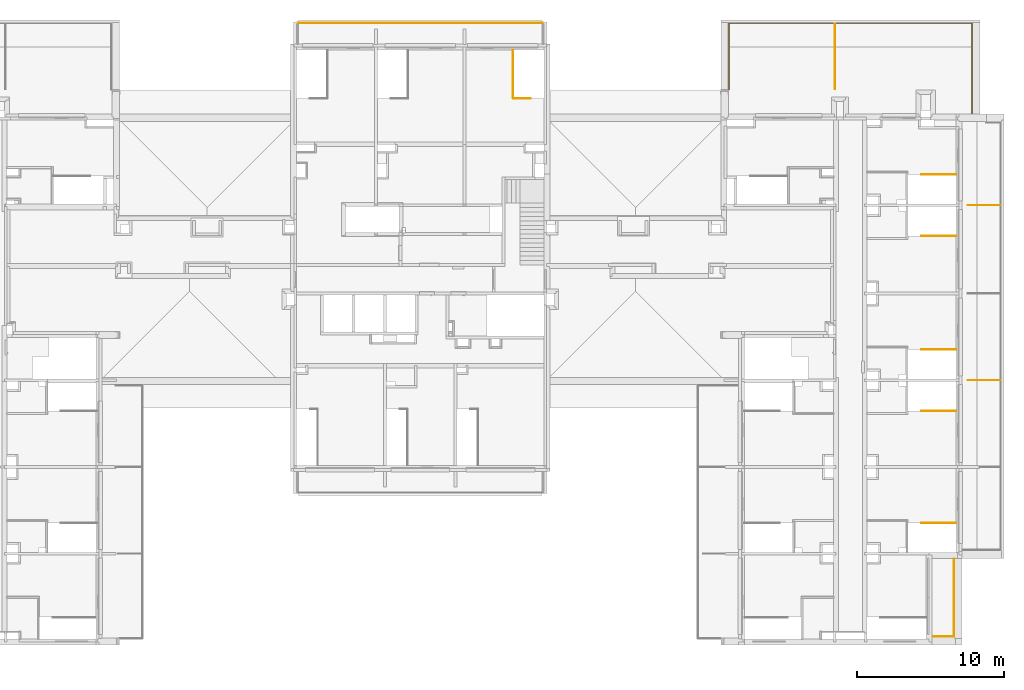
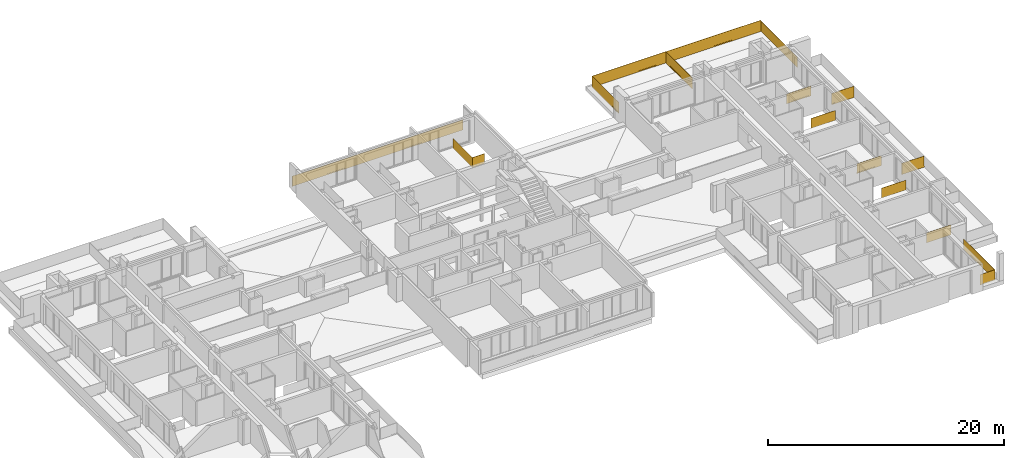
# One storey, part 10 of 30: 12 railings.
"""IFC2X3 building model written with IfcOpenShell, lengths in millimetres."""

import ifcopenshell
import ifcopenshell.guid

model = None  # the IFC model being written
_history = None  # IfcOwnerHistory: only IFC2X3 demands one
_inside = {}  # id of a spatial element -> (the spatial element, [elements in it])
_under = {}  # id of a project, library or spatial element -> (it, [spatial elements below it])
_declared = {}  # id of a project -> (the project, [libraries it declares])
_typed = {}  # id of a type object -> (the type object, [elements of that type])
_made_of = {}  # id of a material, layer set ... -> (it, [elements and type objects made of it])


def new_model(schema):
    """Start an empty IFC model of exactly this schema.

    Asked for "IFC4X3", IfcOpenShell would pick the latest addendum, in which some entities
    have other attributes; the version numbers below select the first issue.
    IFC2X3 requires an IfcOwnerHistory on every rooted entity: one is made here for all.
    """
    global model, _history
    if schema == "IFC4X3":
        model = ifcopenshell.file(schema_version=(4, 3, 0, 0))
    else:
        model = ifcopenshell.file(schema=schema)
    _inside.clear()
    _under.clear()
    _declared.clear()
    _typed.clear()
    _made_of.clear()
    _history = None
    if model.schema == "IFC2X3":
        org = make("IfcOrganization", Name="unknown")
        user = make(
            "IfcPersonAndOrganization",
            ThePerson=make("IfcPerson", FamilyName="unknown"),
            TheOrganization=org,
        )
        app = make(
            "IfcApplication",
            ApplicationDeveloper=org,
            Version="unknown",
            ApplicationFullName="unknown",
            ApplicationIdentifier="unknown",
        )
        _history = make(
            "IfcOwnerHistory",
            OwningUser=user,
            OwningApplication=app,
            ChangeAction="ADDED",
            CreationDate=0,
        )
    return model


def make(cls, **values):
    """One entity of the class cls with the attributes given. An attribute that is None is left unset."""
    return model.create_entity(
        cls, **{name: value for name, value in values.items() if value is not None}
    )


def entity(cls, *values):
    """Any entity or typed value of the class cls, its attributes in the order of the schema. None: left unset."""
    e = model.create_entity(cls)
    for i, value in enumerate(values):
        if value is not None:
            e[i] = value
    return e


def rooted(cls, **values):
    """An entity with a GlobalId (a new one), such as an element, a storey or a relation."""
    return make(cls, GlobalId=ifcopenshell.guid.new(), OwnerHistory=_history, **values)


def si_unit(unit_type, name, prefix=None):
    """IfcSIUnit, for example si_unit("LENGTHUNIT", "METRE", prefix="MILLI")."""
    return make("IfcSIUnit", UnitType=unit_type, Prefix=prefix, Name=name)


def converted_unit(unit_type, name, factor, base, dimensions=None, offset=None):
    """IfcConversionBasedUnit, such as the inch: factor (a typed value) times the base unit."""
    return make(
        "IfcConversionBasedUnit"
        if offset is None
        else "IfcConversionBasedUnitWithOffset",
        ConversionOffset=offset,
        Dimensions=None
        if dimensions is None
        else entity("IfcDimensionalExponents", *dimensions),
        UnitType=unit_type,
        Name=name,
        ConversionFactor=make(
            "IfcMeasureWithUnit", ValueComponent=factor, UnitComponent=base
        ),
    )


def derived_unit(unit_type, elements):
    """IfcDerivedUnit: a product of units, each with its exponent."""
    return make(
        "IfcDerivedUnit",
        Elements=[
            make("IfcDerivedUnitElement", Unit=unit, Exponent=power)
            for unit, power in elements
        ],
        UnitType=unit_type,
    )


def money_unit(currency):
    """IfcMonetaryUnit."""
    return make("IfcMonetaryUnit", Currency=currency)


def assignment(units):
    """IfcUnitAssignment: the units of a project."""
    return None if units is None else make("IfcUnitAssignment", Units=units)


def point(xyz):
    """IfcCartesianPoint."""
    return None if xyz is None else make("IfcCartesianPoint", Coordinates=xyz)


def direction(xyz):
    """IfcDirection."""
    return None if xyz is None else make("IfcDirection", DirectionRatios=xyz)


def frame(location, z_axis=None, x_axis=None):
    """IfcAxis2Placement3D, a coordinate frame: its origin and axes. An axis left out is left unset."""
    return make(
        "IfcAxis2Placement3D",
        Location=point(location),
        Axis=direction(z_axis),
        RefDirection=direction(x_axis),
    )


def origin_with_axes():
    """The frame at (0, 0, 0) with the z axis (0, 0, 1) and the x axis (1, 0, 0) written out."""
    return frame((0.0, 0.0, 0.0), z_axis=(0.0, 0.0, 1.0), x_axis=(1.0, 0.0, 0.0))


def place(relative_to, where):
    """IfcLocalPlacement: puts the frame where relative to a parent placement (None: the world)."""
    return make(
        "IfcLocalPlacement", PlacementRelTo=relative_to, RelativePlacement=where
    )


def context(
    kind, dimensions, precision=None, world=None, true_north=None, identifier=None
):
    """IfcGeometricRepresentationContext, for example the 3D "Model" context."""
    return make(
        "IfcGeometricRepresentationContext",
        ContextIdentifier=identifier,
        ContextType=kind,
        CoordinateSpaceDimension=dimensions,
        Precision=precision,
        WorldCoordinateSystem=world,
        TrueNorth=true_north,
    )


def subcontext(parent, identifier, kind, view, scale=None):
    """IfcGeometricRepresentationSubContext, for example "Body" below "Model"."""
    return make(
        "IfcGeometricRepresentationSubContext",
        ContextIdentifier=identifier,
        ContextType=kind,
        ParentContext=parent,
        TargetScale=scale,
        TargetView=view,
    )


def project(units=None, contexts=None):
    """IfcProject with its units and contexts."""
    return rooted(
        "IfcProject",
        Name="project",
        RepresentationContexts=contexts,
        UnitsInContext=assignment(units),
    )


def spatial(cls, under=None, at=None, **own):
    """A site, building, storey or space (cls), placed at a placement, below another one or the project."""
    s = rooted(cls, ObjectPlacement=at, **own)
    if under is not None:
        _under.setdefault(under.id(), (under, []))[1].append(s)
    return s


def faces_of(points, faces, orient=None, outer=None):
    """IfcFace entities. A face is a list of loops; a loop is a list of indices into points, from 0.

    orient and outer hold one flag for each loop. By default every Orientation is true, the
    first loop of a face is its IfcFaceOuterBound and the others are IfcFaceBound.
    """
    made = []
    for i, loops in enumerate(faces):
        bounds = []
        for j, loop in enumerate(loops):
            is_outer = j == 0 if outer is None else outer[i][j]
            bounds.append(
                make(
                    "IfcFaceOuterBound" if is_outer else "IfcFaceBound",
                    Bound=make("IfcPolyLoop", Polygon=[points[k] for k in loop]),
                    Orientation=True if orient is None else orient[i][j],
                )
            )
        made.append(make("IfcFace", Bounds=bounds))
    return made


def faceted_brep(points, faces, orient=None, outer=None, voids=None):
    """IfcFacetedBrep: a solid bounded by flat faces; with voids (closed shells), ...WithVoids."""
    shared = [point(p) for p in points]
    hull = make("IfcClosedShell", CfsFaces=faces_of(shared, faces, orient, outer))
    if voids is None:
        return make("IfcFacetedBrep", Outer=hull)
    return make(
        "IfcFacetedBrepWithVoids",
        Outer=hull,
        Voids=[
            make(cls, CfsFaces=faces_of(shared, fs, o, b)) for cls, fs, o, b in voids
        ],
    )


def shape(context_of_items, identifier, shape_type, items):
    """IfcShapeRepresentation: the items that make up one representation, for example the "Body"."""
    return make(
        "IfcShapeRepresentation",
        ContextOfItems=context_of_items,
        RepresentationIdentifier=identifier,
        RepresentationType=shape_type,
        Items=items,
    )


def material(Name=None, Category=None):
    """IfcMaterial."""
    return make("IfcMaterial", Name=Name, Category=Category)


def material_list(materials):
    """IfcMaterialList."""
    return make("IfcMaterialList", Materials=materials)


def made_of(thing, what):
    """Note that an element or type object is made of a material, layer set ...; save() writes the relation."""
    if what is not None:
        _made_of.setdefault(what.id(), (what, []))[1].append(thing)
    return thing


def type_object(cls, material=None, **own):
    """A type object (cls), such as IfcWallType, which elements share."""
    return made_of(rooted(cls, **own), material)


def element(
    cls,
    number,
    at=None,
    inside=None,
    cuts=None,
    type_object=None,
    material=None,
    context=None,
    identifier="Body",
    shape_type=None,
    held_by="IfcProductDefinitionShape",
    body=None,
    shapes=None,
    **own,
):
    """One element of the class cls, such as IfcWall. Its Tag is "e" and its number.

    at: its placement. inside: the storey or other place that contains it. cuts: it is an
    opening in that element (IfcRelVoidsElement). A single representation is given by context,
    identifier, shape_type and body (its items); several are given by shapes. held_by: the class
    of the entity that holds the representations. save() writes the other relations.
    """
    e = rooted(cls, Tag="e%d" % number, ObjectPlacement=at, **own)
    if body is not None:
        shapes = [shape(context, identifier, shape_type, body)]
    if shapes is not None:
        e.Representation = make(held_by, Representations=shapes)
    if inside is not None:
        _inside.setdefault(inside.id(), (inside, []))[1].append(e)
    if cuts is not None:
        rooted(
            "IfcRelVoidsElement", RelatingBuildingElement=cuts, RelatedOpeningElement=e
        )
    if type_object is not None:
        _typed.setdefault(type_object.id(), (type_object, []))[1].append(e)
    return made_of(e, material)


def aggregate(whole, parts):
    """IfcRelAggregates: a whole, such as a stair, and the parts it consists of."""
    return rooted("IfcRelAggregates", RelatingObject=whole, RelatedObjects=parts)


def save(model, path):
    """Write the relations noted so far, then the file.

    IfcRelAggregates (storeys below a building ...), IfcRelContainedInSpatialStructure (elements
    in a storey), IfcRelDefinesByType, IfcRelAssociatesMaterial and IfcRelDeclares: one each for
    every whole, place, type object, material and project.
    """
    for whole, parts in _under.values():
        aggregate(whole, parts)
    for where, things in _inside.values():
        rooted(
            "IfcRelContainedInSpatialStructure",
            RelatedElements=things,
            RelatingStructure=where,
        )
    for kind, things in _typed.values():
        rooted("IfcRelDefinesByType", RelatedObjects=things, RelatingType=kind)
    for what, things in _made_of.values():
        rooted("IfcRelAssociatesMaterial", RelatedObjects=things, RelatingMaterial=what)
    for by, libraries in _declared.values():
        rooted("IfcRelDeclares", RelatingContext=by, RelatedDefinitions=libraries)
    model.write(path)


model = new_model("IFC2X3")

# Units and contexts
model_context = context("Model", 3, precision=0.01, world=origin_with_axes(), true_north=direction((0.34421633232, 0.938890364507)))
body_context = subcontext(model_context, "Body", "Model", "MODEL_VIEW")
ifc_project = project(units=[si_unit("LENGTHUNIT", "METRE", prefix="MILLI"), si_unit("AREAUNIT", "SQUARE_METRE"), si_unit("VOLUMEUNIT", "CUBIC_METRE"), converted_unit("PLANEANGLEUNIT", "DEGREE", entity("IfcPlaneAngleMeasure", 0.0174532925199), si_unit("PLANEANGLEUNIT", "RADIAN"), dimensions=[0, 0, 0, 0, 0, 0, 0]), si_unit("SOLIDANGLEUNIT", "STERADIAN"), money_unit("USD"), converted_unit("TIMEUNIT", "Year", entity("IfcTimeMeasure", 31556926.0), si_unit("TIMEUNIT", "SECOND"), dimensions=[0, 0, 1, 0, 0, 0, 0]), si_unit("MASSUNIT", "GRAM", prefix="KILO"), si_unit("THERMODYNAMICTEMPERATUREUNIT", "DEGREE_CELSIUS"), si_unit("LUMINOUSINTENSITYUNIT", "LUMEN"), si_unit("ENERGYUNIT", "JOULE", prefix="MEGA"), derived_unit("THERMALCONDUCTANCEUNIT", [(si_unit("POWERUNIT", "WATT"), 1), (si_unit("LENGTHUNIT", "METRE"), -1), (si_unit("THERMODYNAMICTEMPERATUREUNIT", "KELVIN"), -1)]), derived_unit("SPECIFICHEATCAPACITYUNIT", [(si_unit("ENERGYUNIT", "JOULE"), 1), (si_unit("MASSUNIT", "GRAM", prefix="KILO"), -1), (si_unit("THERMODYNAMICTEMPERATUREUNIT", "KELVIN"), -1)]), derived_unit("MASSDENSITYUNIT", [(si_unit("MASSUNIT", "GRAM", prefix="KILO"), 1), (si_unit("VOLUMEUNIT", "CUBIC_METRE"), -1)])], contexts=[model_context])

# Site, building, storey
site_placement = place(None, origin_with_axes())
site = spatial("IfcSite", under=ifc_project, at=site_placement, Name="USTRONIE MORSKIE", CompositionType="ELEMENT")
building_placement = place(site_placement, origin_with_axes())
building = spatial("IfcBuilding", under=site, at=building_placement, Name="Budynek", CompositionType="ELEMENT")
storey_placement = place(building_placement, frame((0.0, 0.0, 16000.0), z_axis=(0.0, 0.0, 1.0), x_axis=(1.0, 0.0, 0.0)))
storey = spatial("IfcBuildingStorey", under=building, at=storey_placement, Name="ANTRESOLA - KOND. TECHNICZNA", CompositionType="ELEMENT", Elevation=16000.0)

# Railings
ifc_material_1 = material(Name="Szkło struktualne")
ifc_material_2 = material(Name="Profile aluminiowe")
ifc_material_list_1 = material_list([ifc_material_1, ifc_material_2])
railing_type = type_object("IfcRailingType", Name="Typ balustrady", PredefinedType="NOTDEFINED")
railing_1_placement = place(storey_placement, frame((423417.920919, 717201.199037, 100.0), z_axis=(0.0, 0.0, 1.0), x_axis=(1.0, 0.0, 0.0)))
element("IfcRailing", 1, at=railing_1_placement, inside=storey, type_object=railing_type, material=ifc_material_list_1, Name="BL1", PredefinedType="NOTDEFINED", context=body_context, shape_type="Brep", body=[
    faceted_brep([(-1540.0, -30.0, -50.0), (850.0, -30.0, -50.0), (850.0, -30.0, 950.0), (-1540.0, -30.0, 950.0), (850.0, -9.99999999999, -50.0), (-1540.0, -9.99999999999, -50.0), (850.0, -9.99999999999, 950.0), (-1540.0, -9.99999999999, 950.0)], [[[0, 1, 2, 3]], [[4, 1, 0, 5]], [[6, 2, 1, 4]], [[3, 2, 6, 7]], [[0, 3, 7, 5]], [[6, 4, 5, 7]]]),
    faceted_brep([(-1540.0, -5.0, 45.0), (850.0, -5.0, 45.0), (850.0, -5.0, -55.0), (-1540.0, -5.0, -55.0), (-1540.0, -9.99999999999, 45.0), (850.0, -9.99999999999, 45.0), (850.0, -9.99999999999, -50.0), (850.0, -30.0, -50.0), (850.0, -30.0, 45.0), (850.0, -35.0, 45.0), (850.0, -35.0, -55.0), (-1540.0, -35.0, -55.0), (-1540.0, -35.0, 45.0), (-1540.0, -30.0, 45.0), (-1540.0, -30.0, -50.0), (-1540.0, -9.99999999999, -50.0)], [[[0, 1, 2, 3]], [[1, 0, 4, 5]], [[6, 7, 8, 9, 10, 2, 1, 5]], [[10, 11, 3, 2]], [[11, 12, 13, 14, 15, 4, 0, 3]], [[15, 6, 5, 4]], [[7, 6, 15, 14]], [[8, 7, 14, 13]], [[9, 8, 13, 12]], [[11, 10, 9, 12]]]),
])
railing_2_placement = place(storey_placement, frame((379017.920919, 749309.408359, 200.0), z_axis=(0.0, 0.0, 1.0), x_axis=(1.0, 0.0, 0.0)))
element("IfcRailing", 2, at=railing_2_placement, inside=storey, type_object=railing_type, material=ifc_material_list_1, Name="BL1", PredefinedType="NOTDEFINED", context=body_context, shape_type="Brep", body=[
    faceted_brep([(17150.0, 1901.79067758, -100.0), (450.0, 1901.79067758, -100.0), (450.0, 1901.79067758, 950.0), (17150.0, 1901.79067758, 950.0), (450.0, 1881.79067758, -100.0), (17150.0, 1881.79067758, -100.0), (450.0, 1881.79067758, 950.0), (17150.0, 1881.79067758, 950.0)], [[[0, 1, 2, 3]], [[4, 1, 0, 5]], [[6, 2, 1, 4]], [[3, 2, 6, 7]], [[0, 3, 7, 5]], [[6, 4, 5, 7]]]),
    faceted_brep([(17150.0, 1876.79067758, -5.0), (450.0, 1876.79067758, -5.0), (450.0, 1876.79067758, -105.0), (17150.0, 1876.79067758, -105.0), (17150.0, 1881.79067758, -5.0), (450.0, 1881.79067758, -5.0), (450.0, 1881.79067758, -100.0), (450.0, 1901.79067758, -100.0), (450.0, 1901.79067758, -5.0), (450.0, 1906.79067758, -5.0), (450.0, 1906.79067758, -105.0), (17150.0, 1906.79067758, -105.0), (17150.0, 1906.79067758, -5.0), (17150.0, 1901.79067758, -5.0), (17150.0, 1901.79067758, -100.0), (17150.0, 1881.79067758, -100.0)], [[[0, 1, 2, 3]], [[1, 0, 4, 5]], [[6, 7, 8, 9, 10, 2, 1, 5]], [[10, 11, 3, 2]], [[11, 12, 13, 14, 15, 4, 0, 3]], [[15, 6, 5, 4]], [[7, 6, 15, 14]], [[8, 7, 14, 13]], [[9, 8, 13, 12]], [[11, 10, 9, 12]]]),
])
railing_3_placement = place(storey_placement, frame((425067.920919, 738801.199036, 200.0), z_axis=(0.0, 0.0, 1.0), x_axis=(-1.0, 0.0, 0.0)))
element("IfcRailing", 3, at=railing_3_placement, inside=storey, type_object=railing_type, material=ifc_material_list_1, Name="BL1", PredefinedType="NOTDEFINED", context=body_context, shape_type="Brep", body=[
    faceted_brep([(-2200.0, -9.99999999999, -100.0), (0.0, -9.99999999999, -100.0), (0.0, -9.99999999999, 1050.0), (-2200.0, -9.99999999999, 1050.0), (0.0, 9.99999999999, -100.0), (-2200.0, 9.99999999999, -100.0), (0.0, 9.99999999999, 1050.0), (-2200.0, 9.99999999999, 1050.0)], [[[0, 1, 2, 3]], [[4, 1, 0, 5]], [[6, 2, 1, 4]], [[3, 2, 6, 7]], [[0, 3, 7, 5]], [[6, 4, 5, 7]]]),
    faceted_brep([(-2200.0, 15.0, -5.0), (0.0, 15.0, -5.0), (0.0, 15.0, -105.0), (-2200.0, 15.0, -105.0), (-2200.0, 9.99999999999, -5.0), (0.0, 9.99999999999, -5.0), (0.0, 9.99999999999, -100.0), (0.0, -9.99999999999, -100.0), (0.0, -9.99999999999, -5.0), (0.0, -15.0, -5.0), (0.0, -15.0, -105.0), (-2200.0, -15.0, -105.0), (-2200.0, -15.0, -5.0), (-2200.0, -9.99999999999, -5.0), (-2200.0, -9.99999999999, -100.0), (-2200.0, 9.99999999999, -100.0)], [[[0, 1, 2, 3]], [[1, 0, 4, 5]], [[6, 7, 8, 9, 10, 2, 1, 5]], [[10, 11, 3, 2]], [[11, 12, 13, 14, 15, 4, 0, 3]], [[15, 6, 5, 4]], [[7, 6, 15, 14]], [[8, 7, 14, 13]], [[9, 8, 13, 12]], [[11, 10, 9, 12]]]),
])
ifc_material_list_2 = material_list([ifc_material_1, ifc_material_2, ifc_material_1, ifc_material_2])
railing_4_placement = place(storey_placement, frame((424157.920884, 714801.199036, 200.0), z_axis=(0.0, 0.0, 1.0), x_axis=(1.0, 0.0, 0.0)))
element("IfcRailing", 4, at=railing_4_placement, inside=storey, type_object=railing_type, material=ifc_material_list_2, Name="BL1", PredefinedType="NOTDEFINED", context=body_context, shape_type="Brep", body=[
    faceted_brep([(-39.9999656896, -29.9999996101, -100.00000039), (-39.9999656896, -29.9999996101, 950.000000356), (-39.9999656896, -5349.99999989, 950.000000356), (-39.9999656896, -5349.99999989, -100.00000039), (-59.9999652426, -29.9999996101, 950.000000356), (-59.9999652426, -29.9999996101, -100.00000039), (-59.9999652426, -5330.00000037, 950.000000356), (-59.9999652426, -5330.00000037, -100.00000039)], [[[0, 1, 2, 3]], [[4, 1, 0, 5]], [[2, 1, 4, 6]], [[3, 2, 6, 7]], [[5, 0, 3, 7]], [[6, 4, 5, 7]]]),
    faceted_brep([(-64.9999654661, -5340.00000009, -5.0), (-64.9999654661, -29.9999999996, -5.0), (-64.9999654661, -29.9999999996, -105.0), (-64.9999654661, -5340.00000009, -105.0), (-59.9999654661, -5340.00000009, -5.0), (-59.9999654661, -29.9999999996, -5.0), (-59.9999654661, -29.9999999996, -100.0), (-39.9999654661, -29.9999999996, -100.0), (-39.9999654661, -29.9999999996, -5.0), (-34.9999654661, -29.9999999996, -5.0), (-34.9999654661, -29.9999999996, -105.0), (-34.9999654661, -5340.00000009, -105.0), (-34.9999654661, -5340.00000009, -5.0), (-39.9999654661, -5340.00000009, -5.0), (-39.9999654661, -5340.00000009, -100.0), (-59.9999654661, -5340.00000009, -100.0)], [[[0, 1, 2, 3]], [[1, 0, 4, 5]], [[6, 7, 8, 9, 10, 2, 1, 5]], [[10, 11, 3, 2]], [[11, 12, 13, 14, 15, 4, 0, 3]], [[15, 6, 5, 4]], [[7, 6, 15, 14]], [[8, 7, 14, 13]], [[9, 8, 13, 12]], [[11, 10, 9, 12]]]),
    faceted_brep([(-39.9999653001, -5349.99999979, -100.00000039), (-39.9999653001, -5349.99999979, 950.000000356), (-1489.99996548, -5350.0000001, 950.000000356), (-1489.99996548, -5350.0000001, -100.00000039), (-59.999964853, -5330.00000024, 950.000000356), (-59.999964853, -5330.00000024, -100.00000039), (-1489.99996549, -5330.00000055, 950.000000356), (-1489.99996549, -5330.00000055, -100.00000039)], [[[0, 1, 2, 3]], [[4, 1, 0, 5]], [[2, 1, 4, 6]], [[3, 2, 6, 7]], [[5, 0, 3, 7]], [[6, 4, 5, 7]]]),
    faceted_brep([(-1489.99996548, -5325.00000033, -5.0), (-49.9999654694, -5325.00000001, -5.0), (-49.9999654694, -5325.00000001, -105.0), (-1489.99996548, -5325.00000033, -105.0), (-1489.99996548, -5330.00000033, -5.0), (-49.9999654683, -5330.00000001, -5.0), (-49.9999654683, -5330.00000001, -100.0), (-49.9999654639, -5350.00000001, -100.0), (-49.9999654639, -5350.00000001, -5.0), (-49.9999654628, -5355.00000001, -5.0), (-49.9999654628, -5355.00000001, -105.0), (-1489.99996547, -5355.00000033, -105.0), (-1489.99996547, -5355.00000033, -5.0), (-1489.99996547, -5350.00000033, -5.0), (-1489.99996547, -5350.00000033, -100.0), (-1489.99996548, -5330.00000033, -100.0)], [[[0, 1, 2, 3]], [[1, 0, 4, 5]], [[6, 7, 8, 9, 10, 2, 1, 5]], [[10, 11, 3, 2]], [[11, 12, 13, 14, 15, 4, 0, 3]], [[15, 6, 5, 4]], [[7, 6, 15, 14]], [[8, 7, 14, 13]], [[9, 8, 13, 12]], [[11, 10, 9, 12]]]),
])
railing_5_placement = place(storey_placement, frame((423417.920919, 736701.205626, 100.0), z_axis=(0.0, 0.0, 1.0), x_axis=(1.0, 0.0, 0.0)))
element("IfcRailing", 5, at=railing_5_placement, inside=storey, type_object=railing_type, material=ifc_material_list_1, Name="BL1", PredefinedType="NOTDEFINED", context=body_context, shape_type="Brep", body=[
    faceted_brep([(-1540.0, 9.99999999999, -50.0), (850.0, 9.99999999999, -50.0), (850.0, 9.99999999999, 950.0), (-1540.0, 9.99999999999, 950.0), (850.0, 30.0, -50.0), (-1540.0, 30.0, -50.0), (850.0, 30.0, 950.0), (-1540.0, 30.0, 950.0)], [[[0, 1, 2, 3]], [[4, 1, 0, 5]], [[6, 2, 1, 4]], [[3, 2, 6, 7]], [[0, 3, 7, 5]], [[6, 4, 5, 7]]]),
    faceted_brep([(-1540.0, 35.0, 45.0), (850.0, 35.0, 45.0), (850.0, 35.0, -55.0), (-1540.0, 35.0, -55.0), (-1540.0, 30.0, 45.0), (850.0, 30.0, 45.0), (850.0, 30.0, -50.0), (850.0, 9.99999999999, -50.0), (850.0, 9.99999999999, 45.0), (850.0, 5.0, 45.0), (850.0, 5.0, -55.0), (-1540.0, 5.0, -55.0), (-1540.0, 5.0, 45.0), (-1540.0, 9.99999999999, 45.0), (-1540.0, 9.99999999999, -50.0), (-1540.0, 30.0, -50.0)], [[[0, 1, 2, 3]], [[1, 0, 4, 5]], [[6, 7, 8, 9, 10, 2, 1, 5]], [[10, 11, 3, 2]], [[11, 12, 13, 14, 15, 4, 0, 3]], [[15, 6, 5, 4]], [[7, 6, 15, 14]], [[8, 7, 14, 13]], [[9, 8, 13, 12]], [[11, 10, 9, 12]]]),
])
for number, where, z_axis, x_axis, name in (
    (6, (423417.920919, 740901.204646, 100.0), (0.0, 0.0, 1.0), (1.0, 0.0, 0.0), "BL1"),
    (7, (423417.920919, 729001.175941, 100.0), (0.0, 0.0, 1.0), (1.0, 0.0, 0.0), "BL1"),
):
    element("IfcRailing", number, at=place(storey_placement, frame(where, z_axis=z_axis, x_axis=x_axis)), inside=storey, type_object=railing_type, material=ifc_material_list_1, Name=name, PredefinedType="NOTDEFINED", context=body_context, shape_type="Brep", body=[
        faceted_brep([(-1540.0, -30.0, -50.0), (850.0, -30.0, -50.0), (850.0, -30.0, 950.0), (-1540.0, -30.0, 950.0), (850.0, -9.99999999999, -50.0), (-1540.0, -9.99999999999, -50.0), (850.0, -9.99999999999, 950.0), (-1540.0, -9.99999999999, 950.0)], [[[0, 1, 2, 3]], [[4, 1, 0, 5]], [[6, 2, 1, 4]], [[3, 2, 6, 7]], [[0, 3, 7, 5]], [[6, 4, 5, 7]]]),
        faceted_brep([(-1540.0, -5.0, 45.0), (850.0, -5.0, 45.0), (850.0, -5.0, -55.0), (-1540.0, -5.0, -55.0), (-1540.0, -9.99999999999, 45.0), (850.0, -9.99999999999, 45.0), (850.0, -9.99999999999, -50.0), (850.0, -30.0, -50.0), (850.0, -30.0, 45.0), (850.0, -35.0, 45.0), (850.0, -35.0, -55.0), (-1540.0, -35.0, -55.0), (-1540.0, -35.0, 45.0), (-1540.0, -30.0, 45.0), (-1540.0, -30.0, -50.0), (-1540.0, -9.99999999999, -50.0)], [[[0, 1, 2, 3]], [[1, 0, 4, 5]], [[6, 7, 8, 9, 10, 2, 1, 5]], [[10, 11, 3, 2]], [[11, 12, 13, 14, 15, 4, 0, 3]], [[15, 6, 5, 4]], [[7, 6, 15, 14]], [[8, 7, 14, 13]], [[9, 8, 13, 12]], [[11, 10, 9, 12]]]),
    ])
railing_6_placement = place(storey_placement, frame((425067.920919, 726901.199036, 200.0), z_axis=(0.0, 0.0, 1.0), x_axis=(-1.0, 0.0, 0.0)))
element("IfcRailing", 8, at=railing_6_placement, inside=storey, type_object=railing_type, material=ifc_material_list_1, Name="BL1", PredefinedType="NOTDEFINED", context=body_context, shape_type="Brep", body=[
    faceted_brep([(-2200.0, -9.99999999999, -100.0), (0.0, -9.99999999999, -100.0), (0.0, -9.99999999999, 1050.0), (-2200.0, -9.99999999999, 1050.0), (0.0, 9.99999999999, -100.0), (-2200.0, 9.99999999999, -100.0), (0.0, 9.99999999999, 1050.0), (-2200.0, 9.99999999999, 1050.0)], [[[0, 1, 2, 3]], [[4, 1, 0, 5]], [[6, 2, 1, 4]], [[3, 2, 6, 7]], [[0, 3, 7, 5]], [[6, 4, 5, 7]]]),
    faceted_brep([(-2200.0, 15.0, -5.0), (0.0, 15.0, -5.0), (0.0, 15.0, -105.0), (-2200.0, 15.0, -105.0), (-2200.0, 9.99999999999, -5.0), (0.0, 9.99999999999, -5.0), (0.0, 9.99999999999, -100.0), (0.0, -9.99999999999, -100.0), (0.0, -9.99999999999, -5.0), (0.0, -15.0, -5.0), (0.0, -15.0, -105.0), (-2200.0, -15.0, -105.0), (-2200.0, -15.0, -5.0), (-2200.0, -9.99999999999, -5.0), (-2200.0, -9.99999999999, -100.0), (-2200.0, 9.99999999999, -100.0)], [[[0, 1, 2, 3]], [[1, 0, 4, 5]], [[6, 7, 8, 9, 10, 2, 1, 5]], [[10, 11, 3, 2]], [[11, 12, 13, 14, 15, 4, 0, 3]], [[15, 6, 5, 4]], [[7, 6, 15, 14]], [[8, 7, 14, 13]], [[9, 8, 13, 12]], [[11, 10, 9, 12]]]),
])
railing_7_placement = place(storey_placement, frame((423417.920919, 724801.199036, 100.0), z_axis=(0.0, 0.0, 1.0), x_axis=(1.0, 0.0, 0.0)))
element("IfcRailing", 9, at=railing_7_placement, inside=storey, type_object=railing_type, material=ifc_material_list_1, Name="BL1", PredefinedType="NOTDEFINED", context=body_context, shape_type="Brep", body=[
    faceted_brep([(-1540.0, 9.99999999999, -50.0), (850.0, 9.99999999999, -50.0), (850.0, 9.99999999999, 950.0), (-1540.0, 9.99999999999, 950.0), (850.0, 30.0, -50.0), (-1540.0, 30.0, -50.0), (850.0, 30.0, 950.0), (-1540.0, 30.0, 950.0)], [[[0, 1, 2, 3]], [[4, 1, 0, 5]], [[6, 2, 1, 4]], [[3, 2, 6, 7]], [[0, 3, 7, 5]], [[6, 4, 5, 7]]]),
    faceted_brep([(-1540.0, 35.0, 45.0), (850.0, 35.0, 45.0), (850.0, 35.0, -55.0), (-1540.0, 35.0, -55.0), (-1540.0, 30.0, 45.0), (850.0, 30.0, 45.0), (850.0, 30.0, -50.0), (850.0, 9.99999999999, -50.0), (850.0, 9.99999999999, 45.0), (850.0, 5.0, 45.0), (850.0, 5.0, -55.0), (-1540.0, 5.0, -55.0), (-1540.0, 5.0, 45.0), (-1540.0, 9.99999999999, 45.0), (-1540.0, 9.99999999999, -50.0), (-1540.0, 30.0, -50.0)], [[[0, 1, 2, 3]], [[1, 0, 4, 5]], [[6, 7, 8, 9, 10, 2, 1, 5]], [[10, 11, 3, 2]], [[11, 12, 13, 14, 15, 4, 0, 3]], [[15, 6, 5, 4]], [[7, 6, 15, 14]], [[8, 7, 14, 13]], [[9, 8, 13, 12]], [[11, 10, 9, 12]]]),
])
railing_8_placement = place(storey_placement, frame((390917.920812, 746051.198965, 100.0), z_axis=(0.0, 0.0, 1.0), x_axis=(-1.0, 0.0, 0.0)))
element("IfcRailing", 10, at=railing_8_placement, inside=storey, type_object=railing_type, material=ifc_material_list_2, Name="BL1", PredefinedType="NOTDEFINED", context=body_context, shape_type="Brep", body=[
    faceted_brep([(-3230.00010706, -3300.00007192, -50.0000003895), (-3230.00010706, -3300.00007192, 949.99999961), (-3230.00010706, -30.0000714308, 949.99999961), (-3230.00010706, -30.0000714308, -50.0000003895), (-3210.00010751, -3300.00007192, 949.99999961), (-3210.00010751, -3300.00007192, -50.0000003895), (-3210.00010751, -10.0000718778, 949.99999961), (-3210.00010751, -10.0000718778, -50.0000003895)], [[[0, 1, 2, 3]], [[4, 1, 0, 5]], [[2, 1, 4, 6]], [[3, 2, 6, 7]], [[5, 0, 3, 7]], [[6, 4, 5, 7]]]),
    faceted_brep([(-3205.00010729, -20.0000715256, 45.0), (-3205.00010729, -3300.00007153, 45.0), (-3205.00010729, -3300.00007153, -55.0), (-3205.00010729, -20.0000715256, -55.0), (-3210.00010729, -20.0000715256, 45.0), (-3210.00010729, -3300.00007153, 45.0), (-3210.00010729, -3300.00007153, -50.0), (-3230.00010729, -3300.00007153, -50.0), (-3230.00010729, -3300.00007153, 45.0), (-3235.00010729, -3300.00007153, 45.0), (-3235.00010729, -3300.00007153, -55.0), (-3235.00010729, -20.0000715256, -55.0), (-3235.00010729, -20.0000715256, 45.0), (-3230.00010729, -20.0000715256, 45.0), (-3230.00010729, -20.0000715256, -50.0), (-3210.00010729, -20.0000715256, -50.0)], [[[0, 1, 2, 3]], [[1, 0, 4, 5]], [[6, 7, 8, 9, 10, 2, 1, 5]], [[10, 11, 3, 2]], [[11, 12, 13, 14, 15, 4, 0, 3]], [[15, 6, 5, 4]], [[7, 6, 15, 14]], [[8, 7, 14, 13]], [[9, 8, 13, 12]], [[11, 10, 9, 12]]]),
    faceted_brep([(-3230.00010668, -30.0000713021, -50.0000003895), (-3230.00010668, -30.0000713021, 949.99999961), (-4400.00010753, -30.0000713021, 949.99999961), (-4400.00010753, -30.0000713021, -50.0000003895), (-3210.00010712, -10.0000717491, 949.99999961), (-3210.00010712, -10.0000717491, -50.0000003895), (-4400.00010753, -10.0000717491, 949.99999961), (-4400.00010753, -10.0000717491, -50.0000003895)], [[[0, 1, 2, 3]], [[4, 1, 0, 5]], [[2, 1, 4, 6]], [[3, 2, 6, 7]], [[5, 0, 3, 7]], [[6, 4, 5, 7]]]),
    faceted_brep([(-4400.00010729, -5.00007152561, 45.0), (-3220.00010729, -5.00007152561, 45.0), (-3220.00010729, -5.00007152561, -55.0), (-4400.00010729, -5.00007152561, -55.0), (-4400.00010729, -10.0000715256, 45.0), (-3220.00010729, -10.0000715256, 45.0), (-3220.00010729, -10.0000715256, -50.0), (-3220.00010729, -30.0000715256, -50.0), (-3220.00010729, -30.0000715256, 45.0), (-3220.00010729, -35.0000715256, 45.0), (-3220.00010729, -35.0000715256, -55.0), (-4400.00010729, -35.0000715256, -55.0), (-4400.00010729, -35.0000715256, 45.0), (-4400.00010729, -30.0000715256, 45.0), (-4400.00010729, -30.0000715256, -50.0), (-4400.00010729, -10.0000715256, -50.0)], [[[0, 1, 2, 3]], [[1, 0, 4, 5]], [[6, 7, 8, 9, 10, 2, 1, 5]], [[10, 11, 3, 2]], [[11, 12, 13, 14, 15, 4, 0, 3]], [[15, 6, 5, 4]], [[7, 6, 15, 14]], [[8, 7, 14, 13]], [[9, 8, 13, 12]], [[11, 10, 9, 12]]]),
])
railing_9_placement = place(storey_placement, frame((416017.920919, 746651.199036, 200.0), z_axis=(0.0, 0.0, 1.0), x_axis=(-1.0, 0.0, 0.0)))
element("IfcRailing", 11, at=railing_9_placement, inside=storey, type_object=railing_type, material=ifc_material_list_1, Name="BL1", PredefinedType="NOTDEFINED", context=body_context, shape_type="Brep", body=[
    faceted_brep([(9.99999999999, -4500.0, -100.0), (9.99999999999, -50.0, -100.0), (9.99999999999, -50.0, 1050.0), (9.99999999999, -4500.0, 1050.0), (-9.99999999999, -50.0, -100.0), (-9.99999999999, -4500.0, -100.0), (-9.99999999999, -50.0, 1050.0), (-9.99999999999, -4500.0, 1050.0)], [[[0, 1, 2, 3]], [[4, 1, 0, 5]], [[6, 2, 1, 4]], [[3, 2, 6, 7]], [[0, 3, 7, 5]], [[6, 4, 5, 7]]]),
    faceted_brep([(-15.0, -4500.0, -5.0), (-15.0, -50.0, -5.0), (-15.0, -50.0, -105.0), (-15.0, -4500.0, -105.0), (-9.99999999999, -4500.0, -5.0), (-9.99999999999, -50.0, -5.0), (-9.99999999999, -50.0, -100.0), (9.99999999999, -50.0, -100.0), (9.99999999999, -50.0, -5.0), (15.0, -50.0, -5.0), (15.0, -50.0, -105.0), (15.0, -4500.0, -105.0), (15.0, -4500.0, -5.0), (9.99999999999, -4500.0, -5.0), (9.99999999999, -4500.0, -100.0), (-9.99999999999, -4500.0, -100.0)], [[[0, 1, 2, 3]], [[1, 0, 4, 5]], [[6, 7, 8, 9, 10, 2, 1, 5]], [[10, 11, 3, 2]], [[11, 12, 13, 14, 15, 4, 0, 3]], [[15, 6, 5, 4]], [[7, 6, 15, 14]], [[8, 7, 14, 13]], [[9, 8, 13, 12]], [[11, 10, 9, 12]]]),
])
ifc_material_list_3 = material_list([ifc_material_1, ifc_material_2, ifc_material_1, ifc_material_2, ifc_material_1, ifc_material_2])
railing_10_placement = place(storey_placement, frame((418017.920919, 709026.409919, 200.0), z_axis=(0.0, 0.0, 1.0), x_axis=(-1.0, 0.0, 0.0)))
element("IfcRailing", 12, at=railing_10_placement, inside=storey, type_object=railing_type, material=ifc_material_list_3, Name="BL1", PredefinedType="NOTDEFINED", context=body_context, shape_type="Brep", body=[
    faceted_brep([(-7300.00000022, -35984.7891165, -100.00000039), (-7300.00000022, -35984.7891165, 950.000000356), (-7300.00000022, -42144.7870137, 950.000000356), (-7300.00000022, -42144.7870137, -100.00000039), (-7319.99999978, -35984.7891165, 950.000000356), (-7319.99999978, -35984.7891165, -100.00000039), (-7319.99999978, -42164.7870133, 950.000000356), (-7319.99999978, -42164.7870133, -100.00000039)], [[[0, 1, 2, 3]], [[4, 1, 0, 5]], [[2, 1, 4, 6]], [[3, 2, 6, 7]], [[5, 0, 3, 7]], [[6, 4, 5, 7]]]),
    faceted_brep([(-7325.0, -35984.7891169, -105.0), (-7325.0, -42154.7870137, -105.0), (-7325.0, -42154.7870137, -5.0), (-7325.0, -35984.7891169, -5.0), (-7295.0, -35984.7891169, -105.0), (-7295.0, -42154.7870137, -105.0), (-7295.0, -42154.7870137, -5.0), (-7300.0, -42154.7870137, -5.0), (-7300.0, -42154.7870137, -100.0), (-7320.0, -42154.7870137, -100.0), (-7320.0, -42154.7870137, -5.0), (-7320.0, -35984.7891169, -5.0), (-7300.0, -35984.7891169, -100.0), (-7300.0, -35984.7891169, -5.0), (-7295.0, -35984.7891169, -5.0), (-7320.0, -35984.7891169, -100.0)], [[[0, 1, 2, 3]], [[4, 5, 1, 0]], [[5, 6, 7, 8, 9, 10, 2, 1]], [[3, 2, 10, 11]], [[12, 13, 14, 4, 0, 3, 11, 15]], [[5, 4, 14, 6]], [[14, 13, 7, 6]], [[13, 12, 8, 7]], [[12, 15, 9, 8]], [[9, 15, 11, 10]]]),
    faceted_brep([(-7300.00000061, -42144.787014, -100.00000039), (-7300.00000061, -42144.787014, 1049.99999998), (9200.00000032, -42144.787014, 1049.99999998), (9200.00000032, -42144.787014, -100.00000039), (-7320.00000017, -42164.7870135, 1049.99999998), (-7320.00000017, -42164.7870135, -100.00000039), (9219.99999987, -42164.7870135, 1049.99999998), (9219.99999987, -42164.7870135, -100.00000039)], [[[0, 1, 2, 3]], [[4, 1, 0, 5]], [[2, 1, 4, 6]], [[3, 2, 6, 7]], [[5, 0, 3, 7]], [[6, 4, 5, 7]]]),
    faceted_brep([(9210.0, -42169.7870137, -5.0), (-7310.0, -42169.7870137, -5.0), (-7310.0, -42169.7870137, -105.0), (9210.0, -42169.7870137, -105.0), (9210.0, -42164.7870137, -5.0), (-7310.0, -42164.7870137, -5.0), (-7310.0, -42164.7870137, -100.0), (-7310.0, -42144.7870137, -100.0), (-7310.0, -42144.7870137, -5.0), (-7310.0, -42139.7870137, -5.0), (-7310.0, -42139.7870137, -105.0), (9210.0, -42139.7870137, -105.0), (9210.0, -42139.7870137, -5.0), (9210.0, -42144.7870137, -5.0), (9210.0, -42144.7870137, -100.0), (9210.0, -42164.7870137, -100.0)], [[[0, 1, 2, 3]], [[1, 0, 4, 5]], [[6, 7, 8, 9, 10, 2, 1, 5]], [[10, 11, 3, 2]], [[11, 12, 13, 14, 15, 4, 0, 3]], [[15, 6, 5, 4]], [[7, 6, 15, 14]], [[8, 7, 14, 13]], [[9, 8, 13, 12]], [[11, 10, 9, 12]]]),
    faceted_brep([(9200.00000022, -42144.7870143, -100.00000039), (9200.00000022, -42144.7870143, 1049.99999998), (9200.00000022, -37624.7891168, 1049.99999998), (9200.00000022, -37624.7891168, -100.00000039), (9219.99999978, -42164.7870139, 1049.99999998), (9219.99999978, -42164.7870139, -100.00000039), (9219.99999978, -37624.7891168, 1049.99999998), (9219.99999978, -37624.7891168, -100.00000039)], [[[0, 1, 2, 3]], [[4, 1, 0, 5]], [[2, 1, 4, 6]], [[3, 2, 6, 7]], [[5, 0, 3, 7]], [[6, 4, 5, 7]]]),
    faceted_brep([(9225.0, -37624.7891169, -5.0), (9225.0, -42154.7870137, -5.0), (9225.0, -42154.7870137, -105.0), (9225.0, -37624.7891169, -105.0), (9220.0, -37624.7891169, -5.0), (9220.0, -42154.7870137, -5.0), (9220.0, -42154.7870137, -100.0), (9200.0, -42154.7870137, -100.0), (9200.0, -42154.7870137, -5.0), (9195.0, -42154.7870137, -5.0), (9195.0, -42154.7870137, -105.0), (9195.0, -37624.7891169, -105.0), (9195.0, -37624.7891169, -5.0), (9200.0, -37624.7891169, -5.0), (9200.0, -37624.7891169, -100.0), (9220.0, -37624.7891169, -100.0)], [[[0, 1, 2, 3]], [[1, 0, 4, 5]], [[6, 7, 8, 9, 10, 2, 1, 5]], [[10, 11, 3, 2]], [[11, 12, 13, 14, 15, 4, 0, 3]], [[15, 6, 5, 4]], [[7, 6, 15, 14]], [[8, 7, 14, 13]], [[9, 8, 13, 12]], [[11, 10, 9, 12]]]),
])

save(model, "model.ifc")
